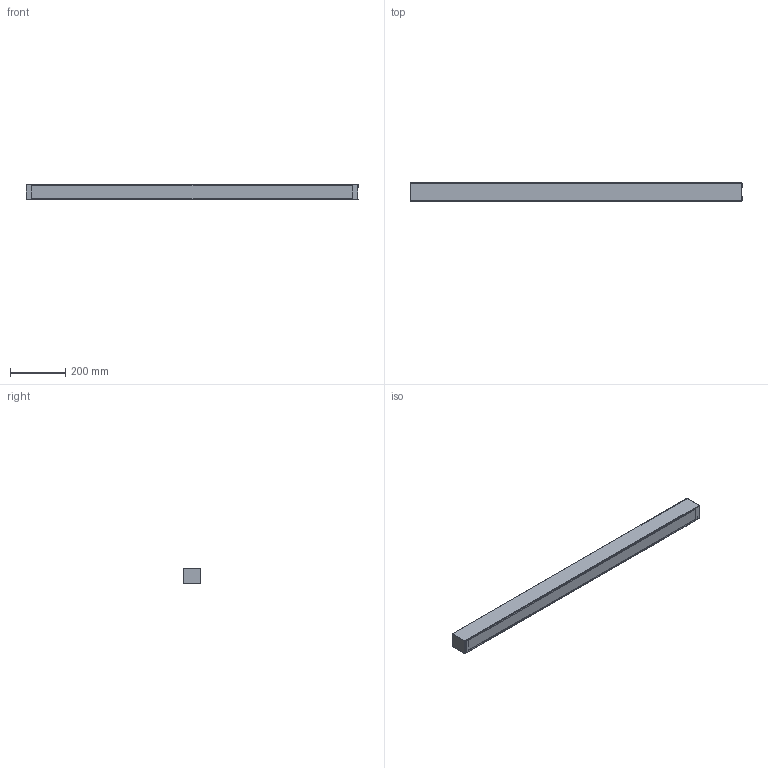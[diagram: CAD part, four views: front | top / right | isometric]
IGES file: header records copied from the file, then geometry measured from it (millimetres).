
Start section: SolidWorks IGES file using analytic representation for surfaces
Global section: file name: C:\Users\ppp\Desktop\Nowodvorski\Modele 3D_lampy\Straight\3Ds\Straight_oprawa_120cm_24.07.IGS; native system: SolidWorks 2012; preprocessor: SolidWorks 2012; author: ppp; date: 150724.080753; units: millimetre
Bounding box: 1200 x 65 x 56 mm (x, y, z)
Surface area: 618294.7 mm2 (no closed solid volume)
Topology: 0 solids, 0 shells, 62 faces, 624 edges, 620 vertices
Faces by surface type: bspline 40, revolution 22
